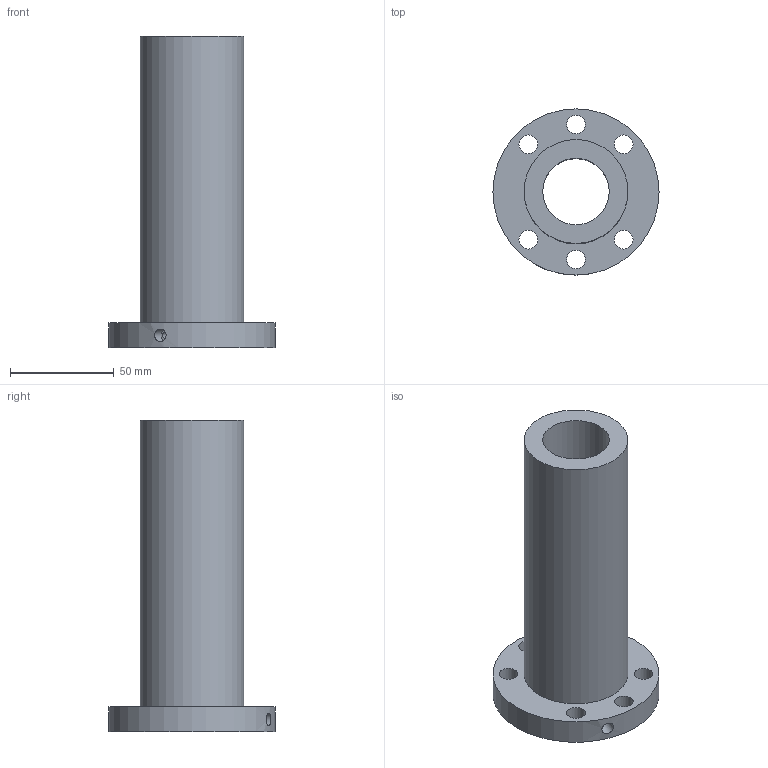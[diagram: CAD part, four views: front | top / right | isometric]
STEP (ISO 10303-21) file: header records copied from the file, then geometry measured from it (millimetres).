
FILE_DESCRIPTION(/* description */ (''),/* implementation_level */ '2;1');
FILE_NAME(/* name */ '32-10K5_3969',/* time_stamp */ '2007-10-15T12:54:01+08:00',/* author */ (''),/* organization */ (''),/* preprocessor_version */ 'ST-DEVELOPER v11',/* originating_system */ 'UGS - NX 5.0',/* authorisation */ '');
FILE_SCHEMA (('CONFIG_CONTROL_DESIGN'));
Length unit declared in the file: millimetre
Products named in the file (1): 32-10K5_3969
Bounding box: 80 x 80 x 150 mm (x, y, z)
Volume: 205636.7 mm3; surface area: 49815.9 mm2
Topology: 1 solids, 1 shells, 15 faces, 34 edges, 23 vertices
Faces by surface type: cylinder 11, plane 4
Full cylindrical faces by diameter (mm): 4 x1, 6 x1, 9 x6, 32 x1, 50 x1, 80 x1
Entity records: 600 total; most frequent: CARTESIAN_POINT 174, DIRECTION 72, FACE_BOUND 44, EDGE_LOOP 44, ORIENTED_EDGE 44, AXIS2_PLACEMENT_3D 36, VERTEX_POINT 22, EDGE_CURVE 22
